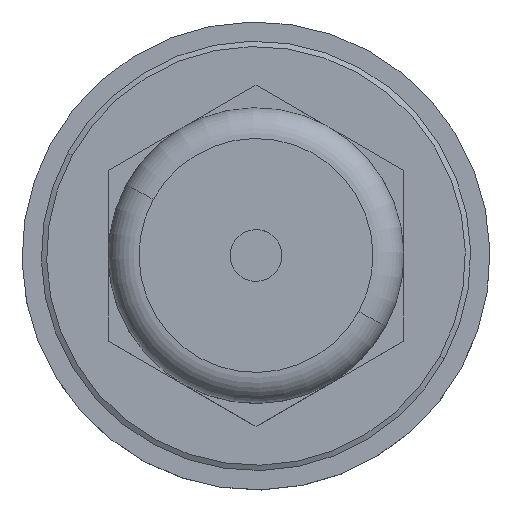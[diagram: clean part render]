
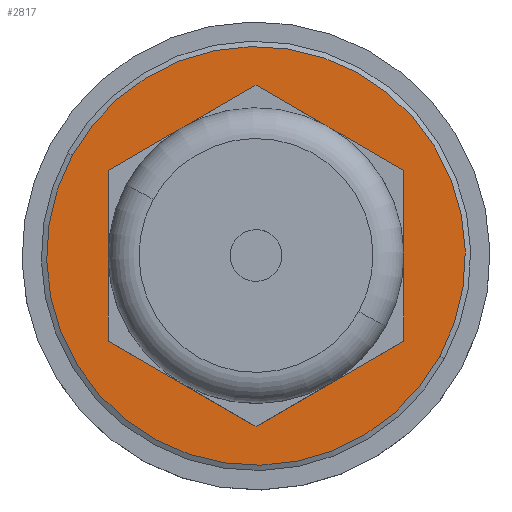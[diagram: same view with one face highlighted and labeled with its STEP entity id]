
A CAD part, top view. The second image highlights one B-rep face of the part: STEP entity #2817.
In plain terms, the highlighted planar face has unit normal (0, 0, 1).
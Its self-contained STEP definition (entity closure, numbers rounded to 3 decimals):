
#2770=AXIS2_PLACEMENT_3D('Plane Axis2P3D',#2767,#2768,#2769) ;
#2774=AXIS2_PLACEMENT_3D('Circle Axis2P3D',#2772,#2773,$) ;
#2783=AXIS2_PLACEMENT_3D('Circle Axis2P3D',#2781,#2782,$) ;
#2568=CARTESIAN_POINT('Line Origine',(-6.,-10.392,8.05)) ;
#2572=CARTESIAN_POINT('Vertex',(0.,-13.856,8.05)) ;
#2574=CARTESIAN_POINT('Vertex',(-12.,-6.928,8.05)) ;
#2625=CARTESIAN_POINT('Vertex',(-12.,6.928,8.05)) ;
#2628=CARTESIAN_POINT('Line Origine',(-12.,0.,8.05)) ;
#2733=CARTESIAN_POINT('Line Origine',(6.,-10.392,8.05)) ;
#2737=CARTESIAN_POINT('Vertex',(12.,-6.928,8.05)) ;
#2767=CARTESIAN_POINT('Axis2P3D Location',(17.,0.,8.05)) ;
#2772=CARTESIAN_POINT('Axis2P3D Location',(0.,0.,8.05)) ;
#2776=CARTESIAN_POINT('Vertex',(14.919,-8.15,8.05)) ;
#2778=CARTESIAN_POINT('Vertex',(-14.919,8.15,8.05)) ;
#2781=CARTESIAN_POINT('Axis2P3D Location',(0.,0.,8.05)) ;
#2790=CARTESIAN_POINT('Line Origine',(-6.,10.392,8.05)) ;
#2794=CARTESIAN_POINT('Vertex',(0.,13.856,8.05)) ;
#2797=CARTESIAN_POINT('Line Origine',(6.,10.392,8.05)) ;
#2801=CARTESIAN_POINT('Vertex',(12.,6.928,8.05)) ;
#2804=CARTESIAN_POINT('Line Origine',(12.,0.,8.05)) ;
#2569=DIRECTION('Vector Direction',(-0.866,0.5,0.)) ;
#2629=DIRECTION('Vector Direction',(0.,-1.,0.)) ;
#2734=DIRECTION('Vector Direction',(0.866,0.5,0.)) ;
#2768=DIRECTION('Axis2P3D Direction',(0.,0.,-1.)) ;
#2769=DIRECTION('Axis2P3D XDirection',(1.,0.,0.)) ;
#2773=DIRECTION('Axis2P3D Direction',(0.,0.,-1.)) ;
#2782=DIRECTION('Axis2P3D Direction',(0.,0.,-1.)) ;
#2791=DIRECTION('Vector Direction',(-0.866,-0.5,0.)) ;
#2798=DIRECTION('Vector Direction',(0.866,-0.5,0.)) ;
#2805=DIRECTION('Vector Direction',(0.,-1.,0.)) ;
#2570=VECTOR('Line Direction',#2569,1.) ;
#2630=VECTOR('Line Direction',#2629,1.) ;
#2735=VECTOR('Line Direction',#2734,1.) ;
#2792=VECTOR('Line Direction',#2791,1.) ;
#2799=VECTOR('Line Direction',#2798,1.) ;
#2806=VECTOR('Line Direction',#2805,1.) ;
#2787=ORIENTED_EDGE('',*,*,#2780,.F.) ;
#2788=ORIENTED_EDGE('',*,*,#2785,.F.) ;
#2810=ORIENTED_EDGE('',*,*,#2576,.T.) ;
#2811=ORIENTED_EDGE('',*,*,#2632,.F.) ;
#2812=ORIENTED_EDGE('',*,*,#2796,.F.) ;
#2813=ORIENTED_EDGE('',*,*,#2803,.T.) ;
#2814=ORIENTED_EDGE('',*,*,#2808,.T.) ;
#2815=ORIENTED_EDGE('',*,*,#2739,.F.) ;
#2816=FACE_BOUND('',#2809,.T.) ;
#2817=ADVANCED_FACE('PartBody',(#2789,#2816),#2771,.F.) ;
#2775=CIRCLE('generated circle',#2774,17.) ;
#2784=CIRCLE('generated circle',#2783,17.) ;
#2576=EDGE_CURVE('',#2573,#2575,#2571,.T.) ;
#2632=EDGE_CURVE('',#2626,#2575,#2631,.T.) ;
#2739=EDGE_CURVE('',#2573,#2738,#2736,.T.) ;
#2780=EDGE_CURVE('',#2777,#2779,#2775,.T.) ;
#2785=EDGE_CURVE('',#2779,#2777,#2784,.T.) ;
#2796=EDGE_CURVE('',#2795,#2626,#2793,.T.) ;
#2803=EDGE_CURVE('',#2795,#2802,#2800,.T.) ;
#2808=EDGE_CURVE('',#2802,#2738,#2807,.T.) ;
#2786=EDGE_LOOP('',(#2787,#2788)) ;
#2809=EDGE_LOOP('',(#2810,#2811,#2812,#2813,#2814,#2815)) ;
#2789=FACE_OUTER_BOUND('',#2786,.T.) ;
#2571=LINE('Line',#2568,#2570) ;
#2631=LINE('Line',#2628,#2630) ;
#2736=LINE('Line',#2733,#2735) ;
#2793=LINE('Line',#2790,#2792) ;
#2800=LINE('Line',#2797,#2799) ;
#2807=LINE('Line',#2804,#2806) ;
#2771=PLANE('',#2770) ;
#2573=VERTEX_POINT('',#2572) ;
#2575=VERTEX_POINT('',#2574) ;
#2626=VERTEX_POINT('',#2625) ;
#2738=VERTEX_POINT('',#2737) ;
#2777=VERTEX_POINT('',#2776) ;
#2779=VERTEX_POINT('',#2778) ;
#2795=VERTEX_POINT('',#2794) ;
#2802=VERTEX_POINT('',#2801) ;
